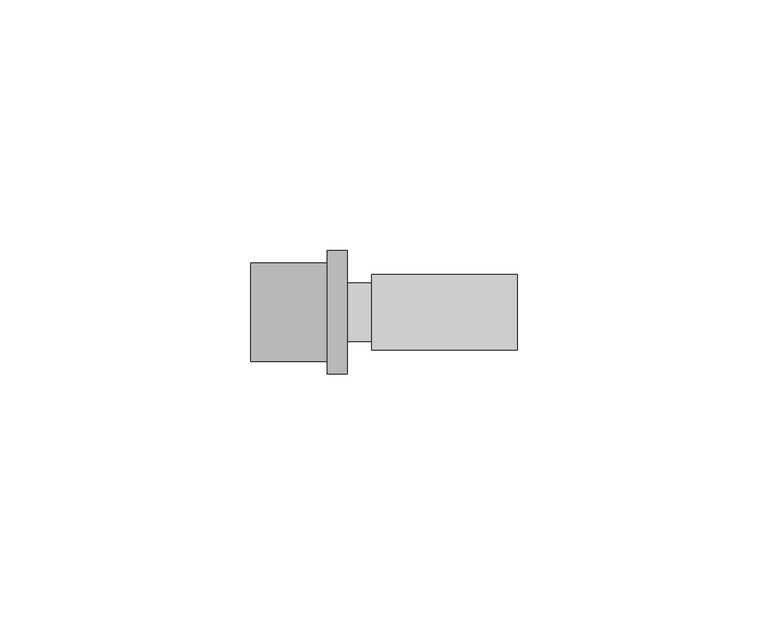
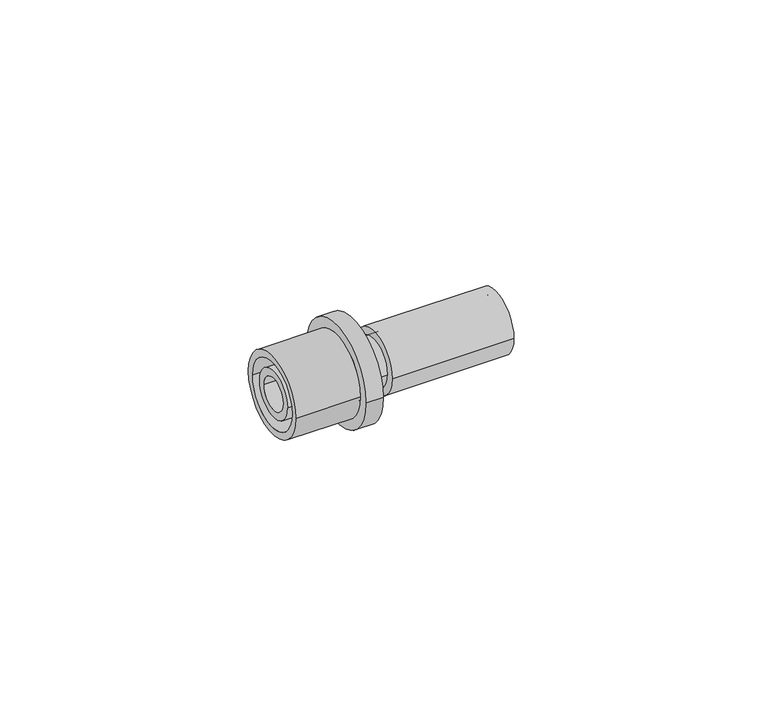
"""IFC4 building model written with IfcOpenShell, lengths in millimetres: pipe fitting geometry, FASTLOC Copper press adapter RX+ : FSL RX+ AT."""

from ifc_helpers import new_model, si_unit, point, frame, origin, origin_2d, place, context, project, spatial, polyline, circle_curve, trimmed, segment, composite_curve, outline, extrude, source, transform, mapped, element, save
from ifc_brep_helpers import plane_surface, cylinder_surface, revolved_surface, advanced_brep


def pipe_fitting_2e9639ed(model_context):
    return source(origin(), model_context, "Body", "SolidModel", [
        advanced_brep(
        [(-8.9, -12.35, 0.0), (-8.9, 12.35, 0.0), (-4.9, 12.35, 0.0), (-4.9, -12.35, 0.0), (-24.2, -9.85, 0.0), (-24.2, 9.85, 0.0), (-8.9, 9.85, 0.0), (-8.9, -9.85, 0.0), (-4.9, -8.15, 0.0), (-4.9, 8.15, 0.0), (-24.2, 8.15, 0.0), (-24.2, -8.15, 0.0)],
        [
            (0, 1, circle_curve(frame((-8.9, 0.0, 0.0), z_axis=(1.0, 0.0, 0.0), x_axis=(0.0, 1.0, 0.0)), 12.35)),
            (1, 2),
            (2, 3, circle_curve(frame((-4.9, 0.0, 0.0), z_axis=(-1.0, 0.0, 0.0), x_axis=(0.0, 1.0, 0.0)), 12.35)),
            (3, 0),
            (4, 5, circle_curve(frame((-24.2, 0.0, 0.0), z_axis=(1.0, 0.0, 0.0), x_axis=(0.0, 1.0, 0.0)), 9.85)),
            (5, 6),
            (6, 7, circle_curve(frame((-8.9, 0.0, 0.0), z_axis=(-1.0, 0.0, 0.0), x_axis=(0.0, 1.0, 0.0)), 9.85)),
            (7, 4),
            (8, 9, circle_curve(frame((-4.9, 0.0, 0.0), z_axis=(1.0, 0.0, 0.0), x_axis=(0.0, 1.0, 0.0)), 8.15)),
            (9, 10),
            (10, 11, circle_curve(frame((-24.2, 0.0, 0.0), z_axis=(-1.0, 0.0, 0.0), x_axis=(0.0, 1.0, 0.0)), 8.15)),
            (11, 8),
            (1, 0, circle_curve(frame((-8.9, 0.0, 0.0), z_axis=(1.0, 0.0, 0.0), x_axis=(0.0, -1.0, 0.0)), 12.35)),
            (3, 2, circle_curve(frame((-4.9, 0.0, 0.0), z_axis=(-1.0, 0.0, 0.0), x_axis=(0.0, -1.0, 0.0)), 12.35)),
            (6, 7, circle_curve(frame((-8.9, 0.0, 0.0), z_axis=(1.0, 0.0, 0.0), x_axis=(0.0, -1.0, 0.0)), 9.85)),
            (5, 4, circle_curve(frame((-24.2, 0.0, 0.0), z_axis=(1.0, 0.0, 0.0), x_axis=(0.0, -1.0, 0.0)), 9.85)),
            (10, 11, circle_curve(frame((-24.2, 0.0, 0.0), z_axis=(1.0, 0.0, 0.0), x_axis=(0.0, -1.0, 0.0)), 8.15)),
            (9, 8, circle_curve(frame((-4.9, 0.0, 0.0), z_axis=(1.0, 0.0, 0.0), x_axis=(0.0, -1.0, 0.0)), 8.15)),
        ],
        [
            cylinder_surface(frame((-4.9, 0.0, 0.0), z_axis=(-1.0, 0.0, 0.0), x_axis=(0.0, 1.0, 0.0)), 12.35),
            cylinder_surface(frame((-4.9, 0.0, 0.0), z_axis=(-1.0, 0.0, 0.0), x_axis=(0.0, 1.0, 0.0)), 9.85),
            revolved_surface(polyline([(-24.199999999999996, 8.15, 0.0), (-4.9, 8.15, 0.0)]), (-4.9, 0.0, 0.0), (-1.0, 0.0, 0.0)),
            cylinder_surface(frame((-4.9, 0.0, 0.0), z_axis=(-1.0, 0.0, 0.0), x_axis=(0.0, -1.0, 0.0)), 12.35),
            plane_surface(frame((-8.9, 0.0, 0.0), z_axis=(-1.0, 0.0, 0.0), x_axis=(0.0, -1.0, 0.0))),
            cylinder_surface(frame((-4.9, 0.0, 0.0), z_axis=(-1.0, 0.0, 0.0), x_axis=(0.0, -1.0, 0.0)), 9.85),
            plane_surface(frame((-24.2, 0.0, 0.0), z_axis=(-1.0, 0.0, 0.0), x_axis=(0.0, -1.0, 0.0))),
            revolved_surface(polyline([(-24.199999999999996, -8.15, 0.0), (-4.9, -8.15, 0.0)]), (-4.9, 0.0, 0.0), (-1.0, 0.0, 0.0)),
            plane_surface(frame((-4.9, 0.0, 0.0), z_axis=(1.0, 0.0, 0.0), x_axis=(0.0, -1.0, 0.0))),
        ],
        [
            (0, [[1, 2, 3, 4]]),
            (1, [[5, 6, 7, 8]]),
            (2, [[9, 10, 11, 12]]),
            (3, [[13, -4, 14, -2]]),
            (4, [[-13, -1], [15, -7]]),
            (5, [[16, -8, -15, -6]]),
            (6, [[-16, -5], [17, -11]]),
            (7, [[18, -12, -17, -10]]),
            (8, [[-14, -3], [-18, -9]]),
        ],
    ),
        extrude(outline(composite_curve([segment(trimmed(circle_curve(origin_2d(), 7.5), [point((-7.5, 0.0))], [point((7.5, 0.0))], False, "CARTESIAN"), True, "CONTINUOUS"), segment(trimmed(circle_curve(origin_2d(), 7.5), [point((7.5, 0.0))], [point((-7.5, 0.0))], False, "CARTESIAN"), True, "CONTINUOUS")], self_intersect=False), holes=[composite_curve([segment(trimmed(circle_curve(origin_2d(), 5.5), [point((-5.5, 0.0))], [point((5.5, 0.0))], True, "CARTESIAN"), True, "CONTINUOUS"), segment(trimmed(circle_curve(origin_2d(), 5.5), [point((5.5, 0.0))], [point((-5.5, 0.0))], True, "CARTESIAN"), True, "CONTINUOUS")], self_intersect=False)]), frame((0.0, 0.0, 0.0), z_axis=(1.0, 0.0, 0.0), x_axis=(0.0, 1.0, 0.0)), (0.0, 0.0, 1.0), 29.0),
        advanced_brep(
        [(-8.9, 5.8, 0.0), (-8.9, -5.8, 0.0), (-23.9, -5.8, 0.0), (-23.9, 5.8, 0.0), (-6.2, 6.9, 0.0), (-6.2, -6.9, 0.0), (-8.9, -6.9, 0.0), (-8.9, 6.9, 0.0), (0.0, 5.8, 0.0), (0.0, -5.8, 0.0), (-6.2, -5.8, 0.0), (-6.2, 5.8, 0.0), (-23.9, 3.95, 0.0), (-23.9, -3.95, 0.0), (0.0, -3.95, 0.0), (0.0, 3.95, 0.0)],
        [
            (0, 1, circle_curve(frame((-8.9, 0.0, 0.0), z_axis=(-1.0, 0.0, 0.0), x_axis=(0.0, -1.0, 0.0)), 5.8)),
            (1, 2),
            (2, 3, circle_curve(frame((-23.9, 0.0, 0.0), z_axis=(1.0, 0.0, 0.0), x_axis=(0.0, -1.0, 0.0)), 5.8)),
            (3, 0),
            (4, 5, circle_curve(frame((-6.2, 0.0, 0.0), z_axis=(-1.0, 0.0, 0.0), x_axis=(0.0, -1.0, 0.0)), 6.9)),
            (5, 6),
            (6, 7, circle_curve(frame((-8.9, 0.0, 0.0), z_axis=(1.0, 0.0, 0.0), x_axis=(0.0, -1.0, 0.0)), 6.9)),
            (7, 4),
            (8, 9, circle_curve(frame((0.0, 0.0, 0.0), z_axis=(-1.0, 0.0, 0.0), x_axis=(0.0, -1.0, 0.0)), 5.8)),
            (9, 10),
            (10, 11, circle_curve(frame((-6.2, 0.0, 0.0), z_axis=(1.0, 0.0, 0.0), x_axis=(0.0, -1.0, 0.0)), 5.8)),
            (11, 8),
            (12, 13, circle_curve(frame((-23.9, 0.0, 0.0), z_axis=(-1.0, 0.0, 0.0), x_axis=(0.0, -1.0, 0.0)), 3.95)),
            (13, 14),
            (14, 15, circle_curve(frame((0.0, 0.0, 0.0), z_axis=(1.0, 0.0, 0.0), x_axis=(0.0, -1.0, 0.0)), 3.95)),
            (15, 12),
            (2, 3, circle_curve(frame((-23.9, 0.0, 0.0), z_axis=(-1.0, 0.0, 0.0), x_axis=(0.0, 1.0, 0.0)), 5.8)),
            (12, 13, circle_curve(frame((-23.9, 0.0, 0.0), z_axis=(1.0, 0.0, 0.0), x_axis=(0.0, 1.0, 0.0)), 3.95)),
            (1, 0, circle_curve(frame((-8.9, 0.0, 0.0), z_axis=(-1.0, 0.0, 0.0), x_axis=(0.0, 1.0, 0.0)), 5.8)),
            (6, 7, circle_curve(frame((-8.9, 0.0, 0.0), z_axis=(-1.0, 0.0, 0.0), x_axis=(0.0, 1.0, 0.0)), 6.9)),
            (5, 4, circle_curve(frame((-6.2, 0.0, 0.0), z_axis=(-1.0, 0.0, 0.0), x_axis=(0.0, 1.0, 0.0)), 6.9)),
            (10, 11, circle_curve(frame((-6.2, 0.0, 0.0), z_axis=(-1.0, 0.0, 0.0), x_axis=(0.0, 1.0, 0.0)), 5.8)),
            (9, 8, circle_curve(frame((0.0, 0.0, 0.0), z_axis=(-1.0, 0.0, 0.0), x_axis=(0.0, 1.0, 0.0)), 5.8)),
            (14, 15, circle_curve(frame((0.0, 0.0, 0.0), z_axis=(-1.0, 0.0, 0.0), x_axis=(0.0, 1.0, 0.0)), 3.95)),
        ],
        [
            cylinder_surface(frame((0.0, 0.0, 0.0), z_axis=(1.0, 0.0, 0.0), x_axis=(0.0, -1.0, 0.0)), 5.8),
            cylinder_surface(frame((0.0, 0.0, 0.0), z_axis=(1.0, 0.0, 0.0), x_axis=(0.0, -1.0, 0.0)), 6.9),
            revolved_surface(polyline([(0.0, -3.95, 0.0), (-23.9, -3.95, 0.0)]), (0.0, 0.0, 0.0), (1.0, 0.0, 0.0)),
            plane_surface(frame((-23.9, 0.0, 0.0), z_axis=(-1.0, 0.0, 0.0), x_axis=(0.0, 1.0, 0.0))),
            cylinder_surface(frame((0.0, 0.0, 0.0), z_axis=(1.0, 0.0, 0.0), x_axis=(0.0, 1.0, 0.0)), 5.8),
            plane_surface(frame((-8.9, 0.0, 0.0), z_axis=(-1.0, 0.0, 0.0), x_axis=(0.0, 1.0, 0.0))),
            cylinder_surface(frame((0.0, 0.0, 0.0), z_axis=(1.0, 0.0, 0.0), x_axis=(0.0, 1.0, 0.0)), 6.9),
            plane_surface(frame((-6.2, 0.0, 0.0), z_axis=(1.0, 0.0, 0.0), x_axis=(0.0, 1.0, 0.0))),
            plane_surface(frame((0.0, 0.0, 0.0), z_axis=(1.0, 0.0, 0.0), x_axis=(0.0, 1.0, 0.0))),
            revolved_surface(polyline([(0.0, 3.95, 0.0), (-23.9, 3.95, 0.0)]), (0.0, 0.0, 0.0), (1.0, 0.0, 0.0)),
        ],
        [
            (0, [[1, 2, 3, 4]]),
            (1, [[5, 6, 7, 8]]),
            (0, [[9, 10, 11, 12]]),
            (2, [[13, 14, 15, 16]]),
            (3, [[17, -3], [18, -13]]),
            (4, [[19, -4, -17, -2]]),
            (5, [[20, -7], [-19, -1]]),
            (6, [[21, -8, -20, -6]]),
            (7, [[-21, -5], [22, -11]]),
            (4, [[23, -12, -22, -10]]),
            (8, [[-23, -9], [24, -15]]),
            (9, [[-18, -16, -24, -14]]),
        ],
    ),
    ])


if __name__ == "__main__":
    model = new_model("IFC4")
    model_context = context("Model", 3, world=origin())
    ifc_project = project(units=[si_unit("LENGTHUNIT", "METRE", prefix="MILLI")], contexts=[model_context])
    site = spatial("IfcSite", under=ifc_project)
    building = spatial("IfcBuilding", under=site)
    placement = place(None, origin())
    pipe_fitting_shape = pipe_fitting_2e9639ed(model_context)
    element("IfcPipeFitting", 1, ObjectType="FASTLOC Copper press adapter RX+ : FSL RX+ AT", at=placement, inside=building, context=model_context, shape_type="MappedRepresentation", body=[
        mapped(pipe_fitting_shape, transform((0.0, 0.0, 0.0), x_axis=(1.0, 0.0, 0.0), y_axis=(0.0, 1.0, 0.0), z_axis=(0.0, 0.0, 1.0))),
    ])
    save(model, "model.ifc")
